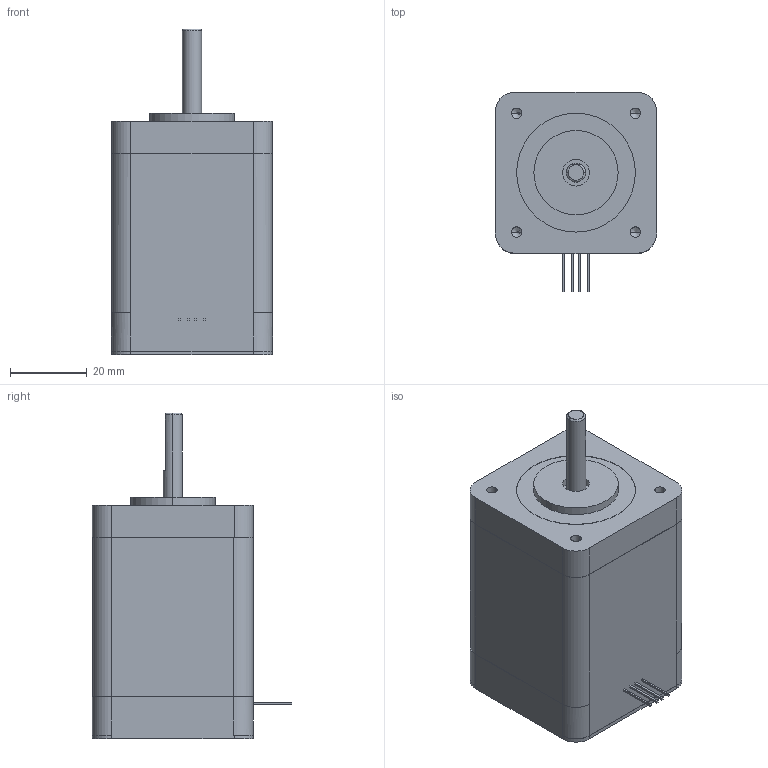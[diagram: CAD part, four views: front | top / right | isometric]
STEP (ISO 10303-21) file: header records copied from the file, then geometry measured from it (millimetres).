
FILE_DESCRIPTION (( 'STEP AP203' ), '1' );
FILE_NAME ('STC-42D20-0461.STEP', '2019-10-25T02:02:13', ( 'China' ), ( 'Home' ), 'SwSTEP 2.0', 'SolidWorks 2016', '' );
FILE_SCHEMA (( 'CONFIG_CONTROL_DESIGN' ));
Length unit declared in the file: millimetre
Products named in the file (1): STC-42D20-0461
Bounding box: 42 x 52 x 85 mm (x, y, z)
Volume: 106701 mm3; surface area: 14277.4 mm2
Topology: 5 solids, 5 shells, 176 faces, 432 edges, 277 vertices
Faces by surface type: plane 105, cylinder 52, cone 16, bspline 3
Entity records: 5226 total; most frequent: CARTESIAN_POINT 954, DIRECTION 881, ORIENTED_EDGE 848, EDGE_CURVE 424, LINE 305, VECTOR 305, AXIS2_PLACEMENT_3D 288, VERTEX_POINT 277
